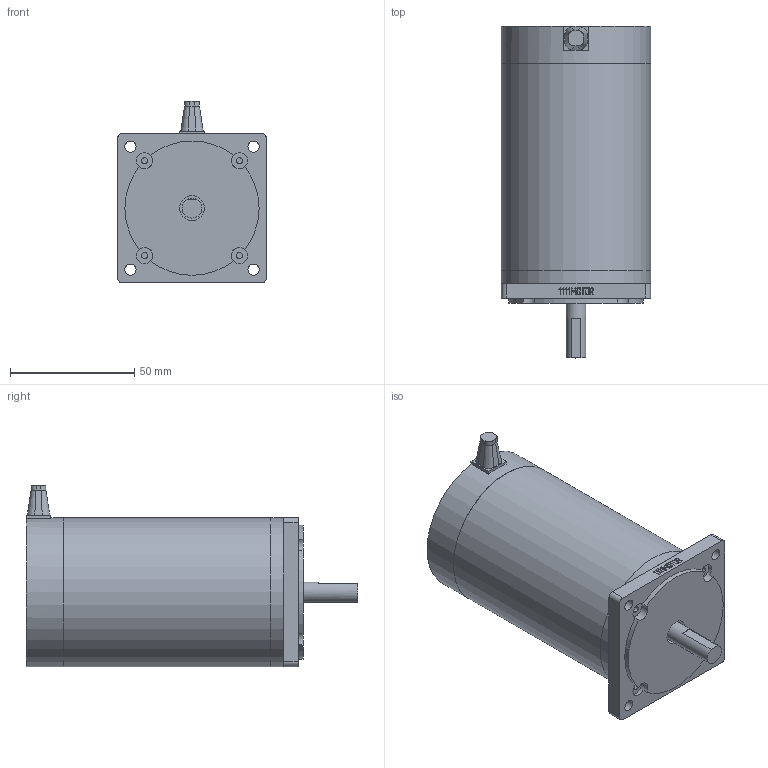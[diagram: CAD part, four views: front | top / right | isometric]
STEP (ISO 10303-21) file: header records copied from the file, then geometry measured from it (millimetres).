
FILE_DESCRIPTION(/* description */ ('Unknown'),/* implementation_level */ '2;1');
FILE_NAME(/* name */ 'BL60L',/* time_stamp */ '2022-08-15T11:28:16+08:00',/* author */ ('Unknown'),/* organization */ ('Unknown'),/* preprocessor_version */ 'ST-DEVELOPER v16.7',/* originating_system */ 'DEX',/* authorisation */ $);
FILE_SCHEMA (('AUTOMOTIVE_DESIGN {1 0 10303 214 3 1 1}'));
Length unit declared in the file: millimetre
Products named in the file (5): BL60L; BL60玡嶈搵; BL60L诀; BL60後0; BL60軸
Assembly tree (4 placements, depth 2):
  BL60L
    BL60玡嶈搵
    BL60L诀
    BL60後0
    BL60軸
Bounding box: 60 x 133.5 x 73 mm (x, y, z)
Volume: 164111.5 mm3; surface area: 55024.5 mm2
Topology: 4 solids, 4 shells, 152 faces, 377 edges, 250 vertices
Faces by surface type: plane 104, cylinder 33, bspline 15
Full cylindrical faces by diameter (mm): 2.459 x4, 4.5 x4, 6.5 x4, 8 x1, 10 x2, 30 x2, 50 x1, 60 x3
Entity records: 5946 total; most frequent: CARTESIAN_POINT 1414, ORIENTED_EDGE 674, DIRECTION 666, EDGE_CURVE 337, VERTEX_POINT 235, LINE 232, VECTOR 232, AXIS2_PLACEMENT_3D 217
